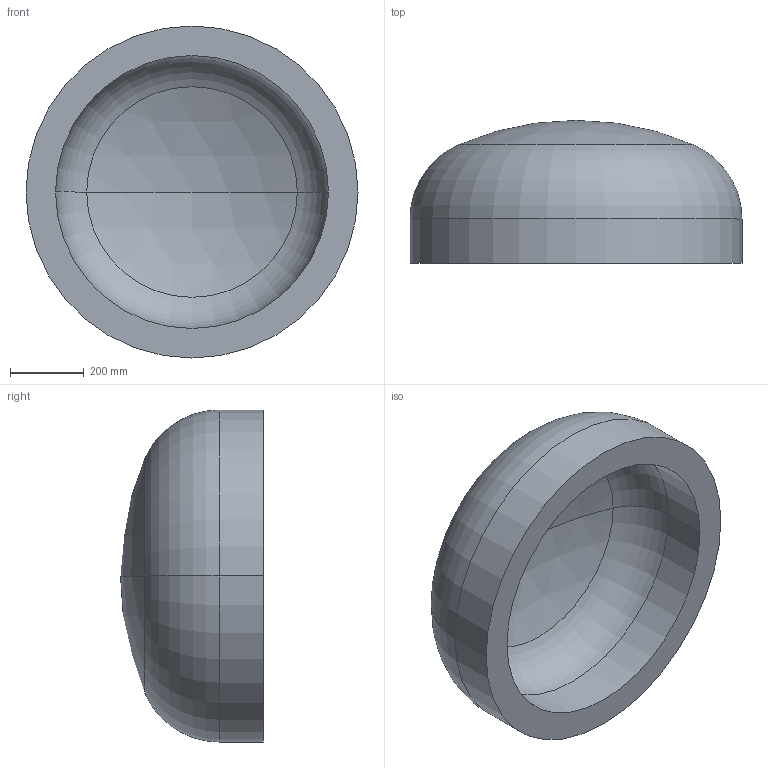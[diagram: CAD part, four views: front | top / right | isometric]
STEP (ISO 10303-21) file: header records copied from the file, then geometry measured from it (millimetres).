
FILE_DESCRIPTION (( 'STEP AP203' ), '1' );
FILE_NAME ('DIN 28013 Korbbogenform_-_Boden DIN 28013 - 900 x 120 - I - s=80.step', '2016-07-01T08:36:21', ( '' ), ( '' ), 'SwSTEP 2.0', 'SolidWorks 2013', '' );
FILE_SCHEMA (( 'CONFIG_CONTROL_DESIGN' ));
Length unit declared in the file: millimetre
Products named in the file (1): DIN 28013 Korbbogenform_-_Boden DIN 28013 - 900 x 120 - I - s=80
Bounding box: 900 x 387.55 x 900 mm (x, y, z)
Volume: 87955928.2 mm3; surface area: 2418390.5 mm2
Topology: 1 solids, 1 shells, 13 faces, 24 edges, 14 vertices
Faces by surface type: torus 4, cylinder 4, sphere 4, plane 1
Entity records: 407 total; most frequent: DIRECTION 72, CARTESIAN_POINT 52, ORIENTED_EDGE 48, AXIS2_PLACEMENT_3D 34, EDGE_CURVE 24, CIRCLE 20, EDGE_LOOP 14, VERTEX_POINT 14
